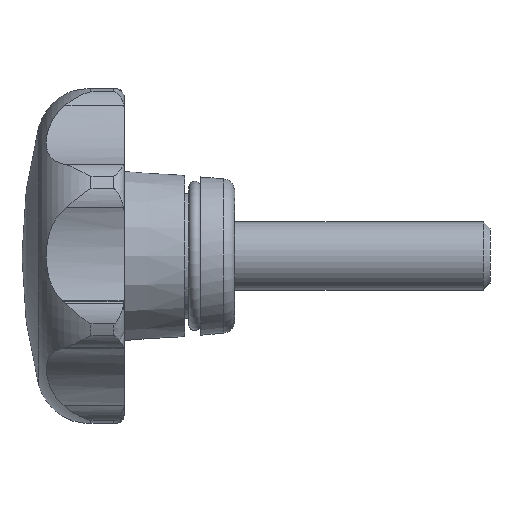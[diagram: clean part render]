
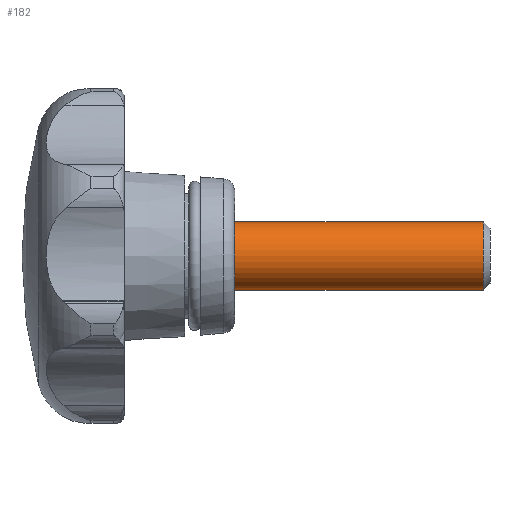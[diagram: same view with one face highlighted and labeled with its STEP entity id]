
A CAD part, left-side view. The second image highlights one B-rep face of the part: STEP entity #182.
In plain terms, the highlighted cylindrical face has radius 4 mm (diameter 8 mm), a full revolution.
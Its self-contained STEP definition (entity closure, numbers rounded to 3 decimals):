
#182 = ADVANCED_FACE( '', ( #364, #365 ), #366, .T. );
#364 = FACE_OUTER_BOUND( '', #729, .T. );
#365 = FACE_OUTER_BOUND( '', #730, .T. );
#366 = CYLINDRICAL_SURFACE( '', #731, 4. );
#729 = EDGE_LOOP( '', ( #1133 ) );
#730 = EDGE_LOOP( '', ( #1134 ) );
#731 = AXIS2_PLACEMENT_3D( '', #1135, #1136, #1137 );
#1133 = ORIENTED_EDGE( '', *, *, #2287, .F. );
#1134 = ORIENTED_EDGE( '', *, *, #2288, .T. );
#1135 = CARTESIAN_POINT( '', ( 0., -30., 0. ) );
#1136 = DIRECTION( '', ( 0., 1., 0. ) );
#1137 = DIRECTION( '', ( 0., 0., -1. ) );
#2287 = EDGE_CURVE( '', #2682, #2682, #2683, .T. );
#2288 = EDGE_CURVE( '', #2684, #2684, #2685, .T. );
#2682 = VERTEX_POINT( '', #3393 );
#2683 = CIRCLE( '', #3394, 4. );
#2684 = VERTEX_POINT( '', #3395 );
#2685 = CIRCLE( '', #3396, 4. );
#3393 = CARTESIAN_POINT( '', ( 0., -29.233, -4. ) );
#3394 = AXIS2_PLACEMENT_3D( '', #5058, #5059, #5060 );
#3395 = CARTESIAN_POINT( '', ( 0., 0., -4. ) );
#3396 = AXIS2_PLACEMENT_3D( '', #5061, #5062, #5063 );
#5058 = CARTESIAN_POINT( '', ( 0., -29.233, 0. ) );
#5059 = DIRECTION( '', ( 0., -1., 0. ) );
#5060 = DIRECTION( '', ( 0., 0., -1. ) );
#5061 = CARTESIAN_POINT( '', ( 0., 0., 0. ) );
#5062 = DIRECTION( '', ( 0., -1., 0. ) );
#5063 = DIRECTION( '', ( 0., 0., -1. ) );
